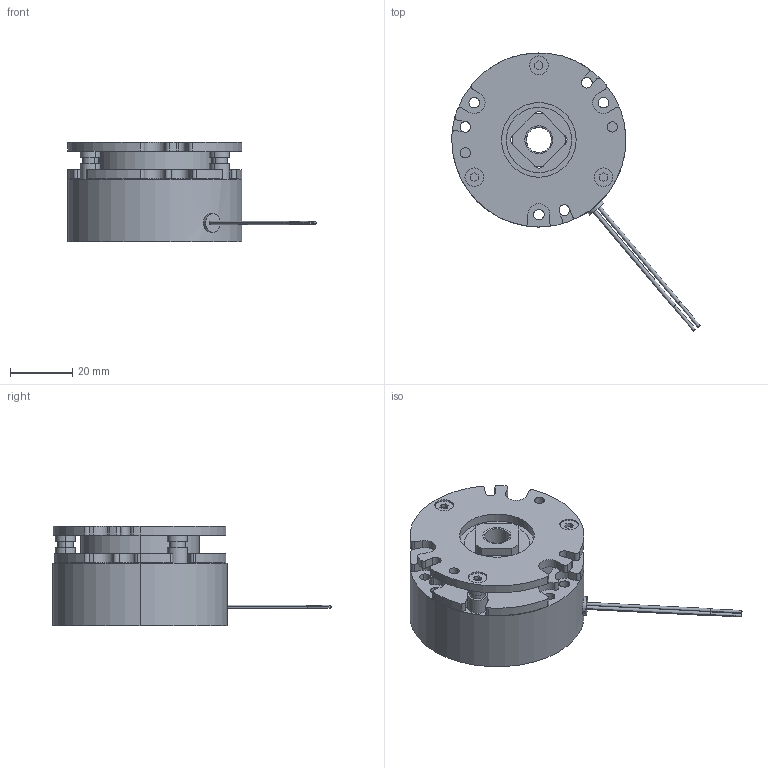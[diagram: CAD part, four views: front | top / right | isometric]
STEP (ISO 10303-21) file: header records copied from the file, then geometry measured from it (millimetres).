
FILE_DESCRIPTION (( 'STEP AP214' ), '1' );
FILE_NAME ('BXW-03-10H-8.STEP', '2017-06-27T07:47:04', ( 'MIKI' ), ( '' ), 'SwSTEP 2.0', 'SolidWorks 2012', '' );
FILE_SCHEMA (( 'AUTOMOTIVE_DESIGN' ));
Length unit declared in the file: millimetre
Products named in the file (1): BXW-03-10H-8
Bounding box: 79.89 x 89.45 x 31.9 mm (x, y, z)
Volume: 60275.3 mm3; surface area: 21781.6 mm2
Topology: 1 solids, 1 shells, 274 faces, 713 edges, 464 vertices
Faces by surface type: cylinder 151, plane 107, cone 16
Entity records: 11767 total; most frequent: CARTESIAN_POINT 1690, DIRECTION 1545, ORIENTED_EDGE 1418, EDGE_CURVE 709, AXIS2_PLACEMENT_3D 579, VERTEX_POINT 464, LINE 387, VECTOR 387
